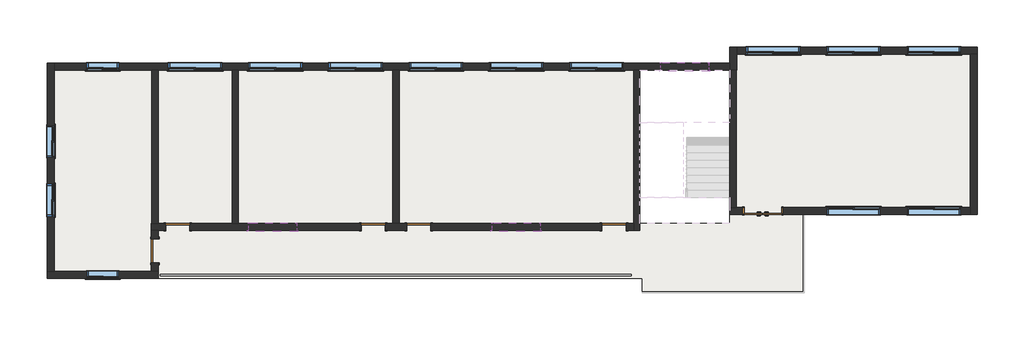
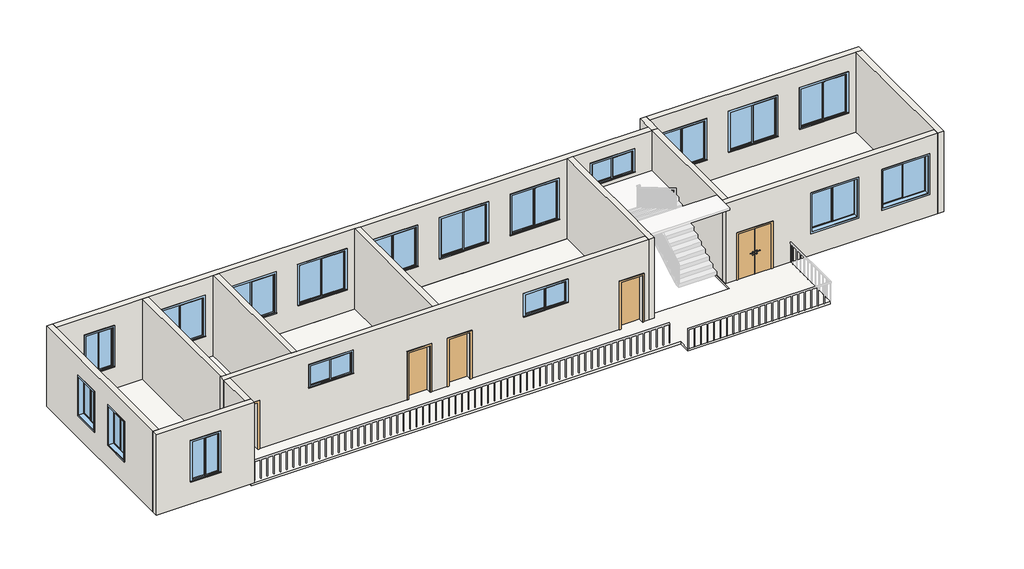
# One storey, part 1 of 3: 18 windows, 14 walls, 6 doors, 1 slab.
"""IFC4 building model written with IfcOpenShell, lengths in millimetres."""

from ifc_helpers import new_model, si_unit, frame, origin, place, context, project, spatial, polyline, outline, extrude, faceted_brep, transform, mapped, element, save
from components import m1_f3cb3123, m1_ab81c9c2, m2_9ba113ef, c1_f694383f, c2_0d9a7da2, c3_ebe1f937

model = new_model("IFC4")

# Units and contexts
model_context = context("Model", 3, world=origin())
ifc_project = project(units=[si_unit("LENGTHUNIT", "METRE", prefix="MILLI")], contexts=[model_context])

# Site, building, storey
site = spatial("IfcSite", under=ifc_project)
building = spatial("IfcBuilding", under=site)
storey = spatial("IfcBuildingStorey", under=building, Name="标高 2", Elevation=3600.0)

# Doors
placement = place(None, origin())
m1_shape = m1_f3cb3123(model_context)
element("IfcDoor", 1, ObjectType="单扇 - 与墙齐 : M1", at=placement, inside=storey, context=model_context, shape_type="MappedRepresentation", body=[
    mapped(m1_shape, transform((-4580.3834175, -5250.9601487, 3600.0), x_axis=(0.0, -1.0, 0.0), y_axis=(1.0, 0.0, 0.0), z_axis=(0.0, 0.0, 1.0))),
])
element("IfcDoor", 2, ObjectType="单扇 - 与墙齐 : M1", at=placement, inside=storey, context=model_context, shape_type="MappedRepresentation", body=[
    mapped(m1_shape, transform((-3730.3834175, -4350.9601487, 3600.0), x_axis=(-1.0, 0.0, 0.0), y_axis=(0.0, -1.0, 0.0), z_axis=(0.0, 0.0, 1.0))),
])
element("IfcDoor", 3, ObjectType="单扇 - 与墙齐 : M1", at=placement, inside=storey, context=model_context, shape_type="MappedRepresentation", body=[
    mapped(m1_shape, transform((5269.6165825, -4350.9601487, 3600.0), x_axis=(-1.0, 0.0, 0.0), y_axis=(0.0, -1.0, 0.0), z_axis=(0.0, 0.0, 1.0))),
])
m1_2_shape = m1_ab81c9c2(model_context)
element("IfcDoor", 4, ObjectType="单扇 - 与墙齐 : M1", at=placement, inside=storey, context=model_context, shape_type="MappedRepresentation", body=[
    mapped(m1_2_shape, transform((3569.6165825, -4350.9601487, 3600.0), x_axis=(1.0, 0.0, 0.0), y_axis=(0.0, 1.0, 0.0), z_axis=(0.0, 0.0, 1.0))),
])
element("IfcDoor", 5, ObjectType="单扇 - 与墙齐 : M1", at=placement, inside=storey, context=model_context, shape_type="MappedRepresentation", body=[
    mapped(m1_2_shape, transform((12569.6165825, -4350.9601487, 3600.0), x_axis=(1.0, 0.0, 0.0), y_axis=(0.0, 1.0, 0.0), z_axis=(0.0, 0.0, 1.0))),
])
m2_shape = m2_9ba113ef(model_context)
element("IfcDoor", 6, ObjectType="双面嵌板木门 1 : M2", at=placement, inside=storey, context=model_context, shape_type="MappedRepresentation", body=[
    mapped(m2_shape, transform((18129.6165825, -3750.9601487, 3600.0), x_axis=(1.0, 0.0, 0.0), y_axis=(0.0, 1.0, 0.0), z_axis=(0.0, 0.0, 1.0))),
])

# Slab
element("IfcSlab", 7, ObjectType="常规 - 100mm", at=placement, inside=storey, context=model_context, shape_type="SweptSolid", body=[
    extrude(outline(polyline([(17149.6165825, 1519.0398513), (17149.6165825, 2119.0398513), (25889.6165825, 2119.0398513), (25889.6165825, -3620.9601487), (19659.6165825, -3620.9601487), (19659.6165825, -6800.9601487), (13619.6165825, -6800.9601487), (13619.6165825, -6280.9601487), (-4580.3834175, -6280.9601487), (-4580.3834175, -6020.9601487), (-8350.3834175, -6020.9601487), (-8350.3834175, 1519.0398513), (13539.6165825, 1519.0398513), (13539.6165825, -4220.9601487), (16889.6165825, -4220.9601487), (16889.6165825, 1519.0398513), (17149.6165825, 1519.0398513)])), frame((0.0, 0.0, 3500.0), z_axis=(0.0, 0.0, 1.0), x_axis=(1.0, 0.0, 0.0)), (0.0, 0.0, 1.0), 100.0),
])

# Walls
element("IfcWall", 8, ObjectType="外墙", at=placement, inside=storey, context=model_context, shape_type="Brep", body=[
    faceted_brep([(-4450.3834175, -6020.9601487, 3600.0), (-4710.3834175, -6020.9601487, 3600.0), (-8350.3834175, -6020.9601487, 3600.0), (-8610.3834175, -6020.9601487, 3600.0), (-8610.3834175, -6020.9601487, 7200.0), (-8350.3834175, -6020.9601487, 7200.0), (-4710.3834175, -6020.9601487, 7200.0), (-4450.3834175, -6020.9601487, 7200.0), (-7130.3834175, -6020.9601487, 6400.0), (-7130.3834175, -6020.9601487, 4600.0), (-5930.3834175, -6020.9601487, 4600.0), (-5930.3834175, -6020.9601487, 6400.0), (-4450.3834175, -6280.9601487, 3600.0), (-4450.3834175, -6280.9601487, 7200.0), (-8610.3834175, -6280.9601487, 7200.0), (-8610.3834175, -6280.9601487, 3600.0), (-7130.3834175, -6280.9601487, 6400.0), (-5930.3834175, -6280.9601487, 6400.0), (-5930.3834175, -6280.9601487, 4600.0), (-7130.3834175, -6280.9601487, 4600.0)], [[[0, 1, 2, 3, 4, 5, 6, 7], [8, 9, 10, 11]], [[12, 13, 14, 15], [16, 17, 18, 19]], [[3, 2, 1, 0, 12, 15]], [[7, 6, 5, 4, 14, 13]], [[4, 3, 15, 14]], [[0, 7, 13, 12]], [[9, 8, 16, 19]], [[10, 9, 19, 18]], [[11, 10, 18, 17]], [[8, 11, 17, 16]]]),
])
element("IfcWall", 9, ObjectType="外墙", at=placement, inside=storey, context=model_context, shape_type="Brep", body=[
    faceted_brep([(-8350.3834175, -6020.9601487, 3600.0), (-8350.3834175, 1519.0398513, 3600.0), (-8350.3834175, 1779.0398513, 3600.0), (-8350.3834175, 1779.0398513, 7200.0), (-8350.3834175, 1519.0398513, 7200.0), (-8350.3834175, -6020.9601487, 7200.0), (-8350.3834175, -1750.9601487, 6400.0), (-8350.3834175, -550.9601487, 6400.0), (-8350.3834175, -550.9601487, 4600.0), (-8350.3834175, -1750.9601487, 4600.0), (-8350.3834175, -3950.9601487, 6400.0), (-8350.3834175, -2750.9601487, 6400.0), (-8350.3834175, -2750.9601487, 4600.0), (-8350.3834175, -3950.9601487, 4600.0), (-8610.3834175, -6020.9601487, 3600.0), (-8610.3834175, -6020.9601487, 7200.0), (-8610.3834175, 1779.0398513, 7200.0), (-8610.3834175, 1779.0398513, 3600.0), (-8610.3834175, -1750.9601487, 6400.0), (-8610.3834175, -1750.9601487, 4600.0), (-8610.3834175, -550.9601487, 4600.0), (-8610.3834175, -550.9601487, 6400.0), (-8610.3834175, -3950.9601487, 6400.0), (-8610.3834175, -3950.9601487, 4600.0), (-8610.3834175, -2750.9601487, 4600.0), (-8610.3834175, -2750.9601487, 6400.0)], [[[0, 1, 2, 3, 4, 5], [6, 7, 8, 9], [10, 11, 12, 13]], [[14, 15, 16, 17], [18, 19, 20, 21], [22, 23, 24, 25]], [[2, 1, 0, 14, 17]], [[5, 4, 3, 16, 15]], [[0, 5, 15, 14]], [[3, 2, 17, 16]], [[19, 18, 6, 9]], [[20, 19, 9, 8]], [[21, 20, 8, 7]], [[18, 21, 7, 6]], [[23, 22, 10, 13]], [[24, 23, 13, 12]], [[25, 24, 12, 11]], [[22, 25, 11, 10]]]),
])
element("IfcWall", 10, ObjectType="外墙", at=placement, inside=storey, context=model_context, shape_type="Brep", body=[
    faceted_brep([(-8350.3834175, 1519.0398513, 3600.0), (-4700.3834175, 1519.0398513, 3600.0), (-4460.3834175, 1519.0398513, 3600.0), (-1700.3834175, 1519.0398513, 3600.0), (-1460.3834175, 1519.0398513, 3600.0), (4299.6165825, 1519.0398513, 3600.0), (4539.6165825, 1519.0398513, 3600.0), (13299.6165825, 1519.0398513, 3600.0), (13539.6165825, 1519.0398513, 3600.0), (16889.6165825, 1519.0398513, 3600.0), (16889.6165825, 1519.0398513, 7200.0), (13539.6165825, 1519.0398513, 7200.0), (13299.6165825, 1519.0398513, 7200.0), (4539.6165825, 1519.0398513, 7200.0), (4299.6165825, 1519.0398513, 7200.0), (-1460.3834175, 1519.0398513, 7200.0), (-1700.3834175, 1519.0398513, 7200.0), (-4460.3834175, 1519.0398513, 7200.0), (-4700.3834175, 1519.0398513, 7200.0), (-8350.3834175, 1519.0398513, 7200.0), (-7130.3834175, 1519.0398513, 6400.0), (-5930.3834175, 1519.0398513, 6400.0), (-5930.3834175, 1519.0398513, 4600.0), (-7130.3834175, 1519.0398513, 4600.0), (-4080.3834175, 1519.0398513, 6400.0), (-2080.3834175, 1519.0398513, 6400.0), (-2080.3834175, 1519.0398513, 4600.0), (-4080.3834175, 1519.0398513, 4600.0), (-1080.3834175, 1519.0398513, 6400.0), (919.6165825, 1519.0398513, 6400.0), (919.6165825, 1519.0398513, 4600.0), (-1080.3834175, 1519.0398513, 4600.0), (1919.6165825, 1519.0398513, 6400.0), (3919.6165825, 1519.0398513, 6400.0), (3919.6165825, 1519.0398513, 4600.0), (1919.6165825, 1519.0398513, 4600.0), (4919.6165825, 1519.0398513, 6400.0), (6919.6165825, 1519.0398513, 6400.0), (6919.6165825, 1519.0398513, 4600.0), (4919.6165825, 1519.0398513, 4600.0), (7919.6165825, 1519.0398513, 6400.0), (9919.6165825, 1519.0398513, 6400.0), (9919.6165825, 1519.0398513, 4600.0), (7919.6165825, 1519.0398513, 4600.0), (10919.6165825, 1519.0398513, 6400.0), (12919.6165825, 1519.0398513, 6400.0), (12919.6165825, 1519.0398513, 4600.0), (10919.6165825, 1519.0398513, 4600.0), (14319.6165825, 1519.0398513, 6600.0), (16119.6165825, 1519.0398513, 6600.0), (16119.6165825, 1519.0398513, 5600.0), (14319.6165825, 1519.0398513, 5600.0), (-8350.3834175, 1779.0398513, 3600.0), (-8350.3834175, 1779.0398513, 7200.0), (16889.6165825, 1779.0398513, 7200.0), (16889.6165825, 1779.0398513, 3600.0), (-7130.3834175, 1779.0398513, 6400.0), (-7130.3834175, 1779.0398513, 4600.0), (-5930.3834175, 1779.0398513, 4600.0), (-5930.3834175, 1779.0398513, 6400.0), (-4080.3834175, 1779.0398513, 6400.0), (-4080.3834175, 1779.0398513, 4600.0), (-2080.3834175, 1779.0398513, 4600.0), (-2080.3834175, 1779.0398513, 6400.0), (-1080.3834175, 1779.0398513, 6400.0), (-1080.3834175, 1779.0398513, 4600.0), (919.6165825, 1779.0398513, 4600.0), (919.6165825, 1779.0398513, 6400.0), (1919.6165825, 1779.0398513, 6400.0), (1919.6165825, 1779.0398513, 4600.0), (3919.6165825, 1779.0398513, 4600.0), (3919.6165825, 1779.0398513, 6400.0), (4919.6165825, 1779.0398513, 6400.0), (4919.6165825, 1779.0398513, 4600.0), (6919.6165825, 1779.0398513, 4600.0), (6919.6165825, 1779.0398513, 6400.0), (7919.6165825, 1779.0398513, 6400.0), (7919.6165825, 1779.0398513, 4600.0), (9919.6165825, 1779.0398513, 4600.0), (9919.6165825, 1779.0398513, 6400.0), (10919.6165825, 1779.0398513, 6400.0), (10919.6165825, 1779.0398513, 4600.0), (12919.6165825, 1779.0398513, 4600.0), (12919.6165825, 1779.0398513, 6400.0), (14319.6165825, 1779.0398513, 6600.0), (14319.6165825, 1779.0398513, 5600.0), (16119.6165825, 1779.0398513, 5600.0), (16119.6165825, 1779.0398513, 6600.0)], [[[0, 1, 2, 3, 4, 5, 6, 7, 8, 9, 10, 11, 12, 13, 14, 15, 16, 17, 18, 19], [20, 21, 22, 23], [24, 25, 26, 27], [28, 29, 30, 31], [32, 33, 34, 35], [36, 37, 38, 39], [40, 41, 42, 43], [44, 45, 46, 47], [48, 49, 50, 51]], [[52, 53, 54, 55], [56, 57, 58, 59], [60, 61, 62, 63], [64, 65, 66, 67], [68, 69, 70, 71], [72, 73, 74, 75], [76, 77, 78, 79], [80, 81, 82, 83], [84, 85, 86, 87]], [[9, 8, 7, 6, 5, 4, 3, 2, 1, 0, 52, 55]], [[19, 18, 17, 16, 15, 14, 13, 12, 11, 10, 54, 53]], [[0, 19, 53, 52]], [[10, 9, 55, 54]], [[57, 56, 20, 23]], [[58, 57, 23, 22]], [[59, 58, 22, 21]], [[56, 59, 21, 20]], [[61, 60, 24, 27]], [[62, 61, 27, 26]], [[63, 62, 26, 25]], [[60, 63, 25, 24]], [[65, 64, 28, 31]], [[66, 65, 31, 30]], [[67, 66, 30, 29]], [[64, 67, 29, 28]], [[69, 68, 32, 35]], [[70, 69, 35, 34]], [[71, 70, 34, 33]], [[68, 71, 33, 32]], [[73, 72, 36, 39]], [[74, 73, 39, 38]], [[75, 74, 38, 37]], [[72, 75, 37, 36]], [[77, 76, 40, 43]], [[78, 77, 43, 42]], [[79, 78, 42, 41]], [[76, 79, 41, 40]], [[81, 80, 44, 47]], [[82, 81, 47, 46]], [[83, 82, 46, 45]], [[80, 83, 45, 44]], [[85, 84, 48, 51]], [[86, 85, 51, 50]], [[87, 86, 50, 49]], [[84, 87, 49, 48]]]),
])
element("IfcWall", 11, ObjectType="外墙", at=placement, inside=storey, context=model_context, shape_type="Brep", body=[
    faceted_brep([(17149.6165825, 1519.0398513, 3600.0), (17149.6165825, 2119.0398513, 3600.0), (17149.6165825, 2379.0398513, 3600.0), (17149.6165825, 2379.0398513, 7200.0), (17149.6165825, 2119.0398513, 7200.0), (17149.6165825, 1519.0398513, 7200.0), (16889.6165825, 1519.0398513, 3600.0), (16889.6165825, 1519.0398513, 7200.0), (16889.6165825, 1779.0398513, 7200.0), (16889.6165825, 2379.0398513, 7200.0), (16889.6165825, 2379.0398513, 3600.0), (16889.6165825, 1779.0398513, 3600.0), (17139.6165825, 1519.0398513, 3600.0), (16899.6165825, 1519.0398513, 3600.0), (16899.6165825, 1519.0398513, 7200.0), (17139.6165825, 1519.0398513, 7200.0)], [[[0, 1, 2, 3, 4, 5]], [[6, 7, 8, 9, 10, 11]], [[2, 1, 0, 12, 13, 6, 11, 10]], [[5, 4, 3, 9, 8, 7, 14, 15]], [[0, 5, 15, 14, 7, 6, 13, 12]], [[3, 2, 10, 9]]]),
])
element("IfcWall", 12, ObjectType="外墙", at=placement, inside=storey, context=model_context, shape_type="Brep", body=[
    faceted_brep([(17149.6165825, 2119.0398513, 3600.0), (25889.6165825, 2119.0398513, 3600.0), (26149.6165825, 2119.0398513, 3600.0), (26149.6165825, 2119.0398513, 7200.0), (25889.6165825, 2119.0398513, 7200.0), (17149.6165825, 2119.0398513, 7200.0), (17519.6165825, 2119.0398513, 6400.0), (19519.6165825, 2119.0398513, 6400.0), (19519.6165825, 2119.0398513, 4600.0), (17519.6165825, 2119.0398513, 4600.0), (20519.6165825, 2119.0398513, 6400.0), (22519.6165825, 2119.0398513, 6400.0), (22519.6165825, 2119.0398513, 4600.0), (20519.6165825, 2119.0398513, 4600.0), (23519.6165825, 2119.0398513, 6400.0), (25519.6165825, 2119.0398513, 6400.0), (25519.6165825, 2119.0398513, 4600.0), (23519.6165825, 2119.0398513, 4600.0), (17149.6165825, 2379.0398513, 3600.0), (17149.6165825, 2379.0398513, 7200.0), (26149.6165825, 2379.0398513, 7200.0), (26149.6165825, 2379.0398513, 3600.0), (17519.6165825, 2379.0398513, 6400.0), (17519.6165825, 2379.0398513, 4600.0), (19519.6165825, 2379.0398513, 4600.0), (19519.6165825, 2379.0398513, 6400.0), (20519.6165825, 2379.0398513, 6400.0), (20519.6165825, 2379.0398513, 4600.0), (22519.6165825, 2379.0398513, 4600.0), (22519.6165825, 2379.0398513, 6400.0), (23519.6165825, 2379.0398513, 6400.0), (23519.6165825, 2379.0398513, 4600.0), (25519.6165825, 2379.0398513, 4600.0), (25519.6165825, 2379.0398513, 6400.0)], [[[0, 1, 2, 3, 4, 5], [6, 7, 8, 9], [10, 11, 12, 13], [14, 15, 16, 17]], [[18, 19, 20, 21], [22, 23, 24, 25], [26, 27, 28, 29], [30, 31, 32, 33]], [[2, 1, 0, 18, 21]], [[5, 4, 3, 20, 19]], [[0, 5, 19, 18]], [[3, 2, 21, 20]], [[23, 22, 6, 9]], [[24, 23, 9, 8]], [[25, 24, 8, 7]], [[22, 25, 7, 6]], [[27, 26, 10, 13]], [[28, 27, 13, 12]], [[29, 28, 12, 11]], [[26, 29, 11, 10]], [[31, 30, 14, 17]], [[32, 31, 17, 16]], [[33, 32, 16, 15]], [[30, 33, 15, 14]]]),
])
element("IfcWall", 13, ObjectType="外墙", at=placement, inside=storey, context=model_context, shape_type="Brep", body=[
    faceted_brep([(25889.6165825, 2119.0398513, 3600.0), (25889.6165825, -3620.9601487, 3600.0), (25889.6165825, -3880.9601487, 3600.0), (25889.6165825, -3880.9601487, 7200.0), (25889.6165825, -3620.9601487, 7200.0), (25889.6165825, 2119.0398513, 7200.0), (26149.6165825, 2119.0398513, 3600.0), (26149.6165825, 2119.0398513, 7200.0), (26149.6165825, -3880.9601487, 7200.0), (26149.6165825, -3880.9601487, 3600.0)], [[[0, 1, 2, 3, 4, 5]], [[6, 7, 8, 9]], [[2, 1, 0, 6, 9]], [[5, 4, 3, 8, 7]], [[0, 5, 7, 6]], [[3, 2, 9, 8]]]),
])
element("IfcWall", 14, ObjectType="外墙", at=placement, inside=storey, context=model_context, shape_type="Brep", body=[
    faceted_brep([(16899.6165825, -3620.9601487, 7200.0), (17139.6165825, -3620.9601487, 7200.0), (25889.6165825, -3620.9601487, 7200.0), (25889.6165825, -3620.9601487, 3600.0), (18879.6165825, -3620.9601487, 3600.0), (18879.6165825, -3620.9601487, 5700.0), (17379.6165825, -3620.9601487, 5700.0), (17379.6165825, -3620.9601487, 3600.0), (17139.6165825, -3620.9601487, 3600.0), (16899.6165825, -3620.9601487, 3600.0), (22519.6165825, -3620.9601487, 6400.0), (20519.6165825, -3620.9601487, 6400.0), (20519.6165825, -3620.9601487, 4600.0), (22519.6165825, -3620.9601487, 4600.0), (25519.6165825, -3620.9601487, 6400.0), (23519.6165825, -3620.9601487, 6400.0), (23519.6165825, -3620.9601487, 4600.0), (25519.6165825, -3620.9601487, 4600.0), (25889.6165825, -3880.9601487, 7200.0), (16899.6165825, -3880.9601487, 7200.0), (16899.6165825, -3880.9601487, 3600.0), (17379.6165825, -3880.9601487, 3600.0), (17379.6165825, -3880.9601487, 5700.0), (18879.6165825, -3880.9601487, 5700.0), (18879.6165825, -3880.9601487, 3600.0), (25889.6165825, -3880.9601487, 3600.0), (22519.6165825, -3880.9601487, 6400.0), (22519.6165825, -3880.9601487, 4600.0), (20519.6165825, -3880.9601487, 4600.0), (20519.6165825, -3880.9601487, 6400.0), (25519.6165825, -3880.9601487, 6400.0), (25519.6165825, -3880.9601487, 4600.0), (23519.6165825, -3880.9601487, 4600.0), (23519.6165825, -3880.9601487, 6400.0)], [[[0, 1, 2, 3, 4, 5, 6, 7, 8, 9], [10, 11, 12, 13], [14, 15, 16, 17]], [[18, 19, 20, 21, 22, 23, 24, 25], [26, 27, 28, 29], [30, 31, 32, 33]], [[3, 25, 24, 4]], [[20, 9, 8, 7, 21]], [[2, 1, 0, 19, 18]], [[3, 2, 18, 25]], [[0, 9, 20, 19]], [[27, 26, 10, 13]], [[28, 27, 13, 12]], [[29, 28, 12, 11]], [[26, 29, 11, 10]], [[31, 30, 14, 17]], [[32, 31, 17, 16]], [[33, 32, 16, 15]], [[30, 33, 15, 14]], [[23, 5, 4, 24]], [[5, 23, 22, 6]], [[6, 22, 21, 7]]]),
])
element("IfcWall", 15, ObjectType="外墙", at=placement, inside=storey, context=model_context, shape_type="Brep", body=[
    faceted_brep([(13299.6165825, -4220.9601487, 3600.0), (13019.6165825, -4220.9601487, 3600.0), (13019.6165825, -4220.9601487, 5700.0), (12119.6165825, -4220.9601487, 5700.0), (12119.6165825, -4220.9601487, 3600.0), (5719.6165825, -4220.9601487, 3600.0), (5719.6165825, -4220.9601487, 5700.0), (4819.6165825, -4220.9601487, 5700.0), (4819.6165825, -4220.9601487, 3600.0), (4539.6165825, -4220.9601487, 3600.0), (4299.6165825, -4220.9601487, 3600.0), (4019.6165825, -4220.9601487, 3600.0), (4019.6165825, -4220.9601487, 5700.0), (3119.6165825, -4220.9601487, 5700.0), (3119.6165825, -4220.9601487, 3600.0), (-1460.3834175, -4220.9601487, 3600.0), (-1700.3834175, -4220.9601487, 3600.0), (-3280.3834175, -4220.9601487, 3600.0), (-3280.3834175, -4220.9601487, 5700.0), (-4180.3834175, -4220.9601487, 5700.0), (-4180.3834175, -4220.9601487, 3600.0), (-4460.3834175, -4220.9601487, 3600.0), (-4700.3834175, -4220.9601487, 3600.0), (-4710.3834175, -4220.9601487, 3600.0), (-4710.3834175, -4220.9601487, 7200.0), (-4700.3834175, -4220.9601487, 7200.0), (-4460.3834175, -4220.9601487, 7200.0), (-1700.3834175, -4220.9601487, 7200.0), (-1460.3834175, -4220.9601487, 7200.0), (4299.6165825, -4220.9601487, 7200.0), (4539.6165825, -4220.9601487, 7200.0), (13299.6165825, -4220.9601487, 7200.0), (8019.6165825, -4220.9601487, 6600.0), (8019.6165825, -4220.9601487, 5600.0), (9819.6165825, -4220.9601487, 5600.0), (9819.6165825, -4220.9601487, 6600.0), (-1080.3834175, -4220.9601487, 6600.0), (-1080.3834175, -4220.9601487, 5600.0), (719.6165825, -4220.9601487, 5600.0), (719.6165825, -4220.9601487, 6600.0), (13019.6165825, -4480.9601487, 5700.0), (13019.6165825, -4480.9601487, 3600.0), (13299.6165825, -4480.9601487, 3600.0), (13299.6165825, -4480.9601487, 7200.0), (-4450.3834175, -4480.9601487, 7200.0), (-4710.3834175, -4480.9601487, 7200.0), (-4710.3834175, -4480.9601487, 3600.0), (-4450.3834175, -4480.9601487, 3600.0), (-4180.3834175, -4480.9601487, 3600.0), (-4180.3834175, -4480.9601487, 5700.0), (-3280.3834175, -4480.9601487, 5700.0), (-3280.3834175, -4480.9601487, 3600.0), (3119.6165825, -4480.9601487, 3600.0), (3119.6165825, -4480.9601487, 5700.0), (4019.6165825, -4480.9601487, 5700.0), (4019.6165825, -4480.9601487, 3600.0), (4819.6165825, -4480.9601487, 3600.0), (4819.6165825, -4480.9601487, 5700.0), (5719.6165825, -4480.9601487, 5700.0), (5719.6165825, -4480.9601487, 3600.0), (12119.6165825, -4480.9601487, 3600.0), (12119.6165825, -4480.9601487, 5700.0), (8019.6165825, -4480.9601487, 6600.0), (9819.6165825, -4480.9601487, 6600.0), (9819.6165825, -4480.9601487, 5600.0), (8019.6165825, -4480.9601487, 5600.0), (-1080.3834175, -4480.9601487, 6600.0), (719.6165825, -4480.9601487, 6600.0), (719.6165825, -4480.9601487, 5600.0), (-1080.3834175, -4480.9601487, 5600.0)], [[[0, 1, 2, 3, 4, 5, 6, 7, 8, 9, 10, 11, 12, 13, 14, 15, 16, 17, 18, 19, 20, 21, 22, 23, 24, 25, 26, 27, 28, 29, 30, 31], [32, 33, 34, 35], [36, 37, 38, 39]], [[40, 41, 42, 43, 44, 45, 46, 47, 48, 49, 50, 51, 52, 53, 54, 55, 56, 57, 58, 59, 60, 61], [62, 63, 64, 65], [66, 67, 68, 69]], [[52, 51, 17, 16, 15, 14]], [[56, 55, 11, 10, 9, 8]], [[60, 59, 5, 4]], [[42, 41, 1, 0]], [[23, 22, 21, 20, 48, 47, 46]], [[31, 30, 29, 28, 27, 26, 25, 24, 45, 44, 43]], [[24, 23, 46, 45]], [[33, 32, 62, 65]], [[34, 33, 65, 64]], [[35, 34, 64, 63]], [[32, 35, 63, 62]], [[37, 36, 66, 69]], [[38, 37, 69, 68]], [[39, 38, 68, 67]], [[36, 39, 67, 66]], [[49, 48, 20, 19]], [[50, 49, 19, 18]], [[51, 50, 18, 17]], [[57, 56, 8, 7]], [[58, 57, 7, 6]], [[59, 58, 6, 5]], [[12, 11, 55, 54]], [[13, 12, 54, 53]], [[14, 13, 53, 52]], [[2, 1, 41, 40]], [[3, 2, 40, 61]], [[4, 3, 61, 60]], [[0, 31, 43, 42]]]),
])
element("IfcWall", 16, ObjectType="外墙", at=placement, inside=storey, context=model_context, shape_type="SweptSolid", body=[
    extrude(outline(polyline([(-5700.9601487, 5700.0), (-5700.9601487, 3600.0), (-6020.9601487, 3600.0), (-6020.9601487, 7200.0), (-4480.9601487, 7200.0), (-4480.9601487, 3600.0), (-4800.9601487, 3600.0), (-4800.9601487, 5700.0), (-5700.9601487, 5700.0)])), frame((-4710.3834175, 0.0, 0.0), z_axis=(1.0, 0.0, 0.0), x_axis=(0.0, 1.0, 0.0)), (0.0, 0.0, 1.0), 260.0),
])
element("IfcWall", 17, ObjectType="内墙", at=placement, inside=storey, context=model_context, shape_type="SweptSolid", body=[
    extrude(outline(polyline([(-4700.3834175, -4220.9601487), (-4700.3834175, 1519.0398513), (-4460.3834175, 1519.0398513), (-4460.3834175, -4220.9601487), (-4700.3834175, -4220.9601487)])), frame((0.0, 0.0, 3600.0), z_axis=(0.0, 0.0, 1.0), x_axis=(1.0, 0.0, 0.0)), (0.0, 0.0, 1.0), 3600.0),
])
element("IfcWall", 18, ObjectType="内墙", at=placement, inside=storey, context=model_context, shape_type="SweptSolid", body=[
    extrude(outline(polyline([(-1700.3834175, -4220.9601487), (-1700.3834175, 1519.0398513), (-1460.3834175, 1519.0398513), (-1460.3834175, -4220.9601487), (-1700.3834175, -4220.9601487)])), frame((0.0, 0.0, 3600.0), z_axis=(0.0, 0.0, 1.0), x_axis=(1.0, 0.0, 0.0)), (0.0, 0.0, 1.0), 3600.0),
])
element("IfcWall", 19, ObjectType="内墙", at=placement, inside=storey, context=model_context, shape_type="SweptSolid", body=[
    extrude(outline(polyline([(4299.6165825, -4220.9601487), (4299.6165825, 1519.0398513), (4539.6165825, 1519.0398513), (4539.6165825, -4220.9601487), (4299.6165825, -4220.9601487)])), frame((0.0, 0.0, 3600.0), z_axis=(0.0, 0.0, 1.0), x_axis=(1.0, 0.0, 0.0)), (0.0, 0.0, 1.0), 3600.0),
])
element("IfcWall", 20, ObjectType="内墙", at=placement, inside=storey, context=model_context, shape_type="Brep", body=[
    faceted_brep([(13299.6165825, 1519.0398513, 3600.0), (13299.6165825, -4220.9601487, 3600.0), (13299.6165825, -4480.9601487, 3600.0), (13299.6165825, -4480.9601487, 7200.0), (13299.6165825, -4220.9601487, 7200.0), (13299.6165825, 1519.0398513, 7200.0), (13539.6165825, 1519.0398513, 3600.0), (13539.6165825, 1519.0398513, 7200.0), (13539.6165825, -4480.9601487, 7200.0), (13539.6165825, -4480.9601487, 3600.0)], [[[0, 1, 2, 3, 4, 5]], [[6, 7, 8, 9]], [[2, 1, 0, 6, 9]], [[5, 4, 3, 8, 7]], [[0, 5, 7, 6]], [[3, 2, 9, 8]]]),
])
element("IfcWall", 21, ObjectType="内墙", at=placement, inside=storey, context=model_context, shape_type="SweptSolid", body=[
    extrude(outline(polyline([(16899.6165825, -3620.9601487), (16899.6165825, 1519.0398513), (17139.6165825, 1519.0398513), (17139.6165825, -3620.9601487), (16899.6165825, -3620.9601487)])), frame((0.0, 0.0, 3600.0), z_axis=(0.0, 0.0, 1.0), x_axis=(1.0, 0.0, 0.0)), (0.0, 0.0, 1.0), 3600.0),
])

# Windows
c1_shape = c1_f694383f(model_context)
element("IfcWindow", 22, ObjectType="推拉窗5 - 带贴面 : C1", at=placement, inside=storey, context=model_context, shape_type="MappedRepresentation", body=[
    mapped(c1_shape, transform((-6520.8584175, -6217.8335862, 3695.0), x_axis=(-1.0, 0.0, 0.0), y_axis=(0.0, -1.0, 0.0), z_axis=(0.0, 0.0, 1.0))),
])
element("IfcWindow", 23, ObjectType="推拉窗5 - 带贴面 : C1", at=placement, inside=storey, context=model_context, shape_type="MappedRepresentation", body=[
    mapped(c1_shape, transform((-8413.50998, -1141.4351487, 3695.0), x_axis=(0.0, -1.0, 0.0), y_axis=(1.0, 0.0, 0.0), z_axis=(0.0, 0.0, 1.0))),
])
element("IfcWindow", 24, ObjectType="推拉窗5 - 带贴面 : C1", at=placement, inside=storey, context=model_context, shape_type="MappedRepresentation", body=[
    mapped(c1_shape, transform((-6520.8584175, 1582.1664138, 3695.0), x_axis=(-1.0, 0.0, 0.0), y_axis=(0.0, -1.0, 0.0), z_axis=(0.0, 0.0, 1.0))),
])
element("IfcWindow", 25, ObjectType="推拉窗5 - 带贴面 : C1", at=placement, inside=storey, context=model_context, shape_type="MappedRepresentation", body=[
    mapped(c1_shape, transform((-8413.50998, -3341.4351487, 3695.0), x_axis=(0.0, -1.0, 0.0), y_axis=(1.0, 0.0, 0.0), z_axis=(0.0, 0.0, 1.0))),
])
c2_shape = c2_0d9a7da2(model_context)
element("IfcWindow", 26, ObjectType="推拉窗5 - 带贴面 : C2", at=placement, inside=storey, context=model_context, shape_type="MappedRepresentation", body=[
    mapped(c2_shape, transform((-3070.8584175, 1582.1664138, 3695.0), x_axis=(-1.0, 0.0, 0.0), y_axis=(0.0, -1.0, 0.0), z_axis=(0.0, 0.0, 1.0))),
])
element("IfcWindow", 27, ObjectType="推拉窗5 - 带贴面 : C2", at=placement, inside=storey, context=model_context, shape_type="MappedRepresentation", body=[
    mapped(c2_shape, transform((-70.8584175, 1582.1664138, 3695.0), x_axis=(-1.0, 0.0, 0.0), y_axis=(0.0, -1.0, 0.0), z_axis=(0.0, 0.0, 1.0))),
])
element("IfcWindow", 28, ObjectType="推拉窗5 - 带贴面 : C2", at=placement, inside=storey, context=model_context, shape_type="MappedRepresentation", body=[
    mapped(c2_shape, transform((2929.1415825, 1582.1664138, 3695.0), x_axis=(-1.0, 0.0, 0.0), y_axis=(0.0, -1.0, 0.0), z_axis=(0.0, 0.0, 1.0))),
])
element("IfcWindow", 29, ObjectType="推拉窗5 - 带贴面 : C2", at=placement, inside=storey, context=model_context, shape_type="MappedRepresentation", body=[
    mapped(c2_shape, transform((5929.1415825, 1582.1664138, 3695.0), x_axis=(-1.0, 0.0, 0.0), y_axis=(0.0, -1.0, 0.0), z_axis=(0.0, 0.0, 1.0))),
])
element("IfcWindow", 30, ObjectType="推拉窗5 - 带贴面 : C2", at=placement, inside=storey, context=model_context, shape_type="MappedRepresentation", body=[
    mapped(c2_shape, transform((8929.1415825, 1582.1664138, 3695.0), x_axis=(-1.0, 0.0, 0.0), y_axis=(0.0, -1.0, 0.0), z_axis=(0.0, 0.0, 1.0))),
])
element("IfcWindow", 31, ObjectType="推拉窗5 - 带贴面 : C2", at=placement, inside=storey, context=model_context, shape_type="MappedRepresentation", body=[
    mapped(c2_shape, transform((11929.1415825, 1582.1664138, 3695.0), x_axis=(-1.0, 0.0, 0.0), y_axis=(0.0, -1.0, 0.0), z_axis=(0.0, 0.0, 1.0))),
])
element("IfcWindow", 32, ObjectType="推拉窗5 - 带贴面 : C2", at=placement, inside=storey, context=model_context, shape_type="MappedRepresentation", body=[
    mapped(c2_shape, transform((18529.1415825, 2182.1664138, 3695.0), x_axis=(-1.0, 0.0, 0.0), y_axis=(0.0, -1.0, 0.0), z_axis=(0.0, 0.0, 1.0))),
])
element("IfcWindow", 33, ObjectType="推拉窗5 - 带贴面 : C2", at=placement, inside=storey, context=model_context, shape_type="MappedRepresentation", body=[
    mapped(c2_shape, transform((21529.1415825, 2182.1664138, 3695.0), x_axis=(-1.0, 0.0, 0.0), y_axis=(0.0, -1.0, 0.0), z_axis=(0.0, 0.0, 1.0))),
])
element("IfcWindow", 34, ObjectType="推拉窗5 - 带贴面 : C2", at=placement, inside=storey, context=model_context, shape_type="MappedRepresentation", body=[
    mapped(c2_shape, transform((24529.1415825, 2182.1664138, 3695.0), x_axis=(-1.0, 0.0, 0.0), y_axis=(0.0, -1.0, 0.0), z_axis=(0.0, 0.0, 1.0))),
])
element("IfcWindow", 35, ObjectType="推拉窗5 - 带贴面 : C2", at=placement, inside=storey, context=model_context, shape_type="MappedRepresentation", body=[
    mapped(c2_shape, transform((21510.0915825, -3684.0867112, 3695.0), x_axis=(1.0, 0.0, 0.0), y_axis=(0.0, 1.0, 0.0), z_axis=(0.0, 0.0, 1.0))),
])
element("IfcWindow", 36, ObjectType="推拉窗5 - 带贴面 : C2", at=placement, inside=storey, context=model_context, shape_type="MappedRepresentation", body=[
    mapped(c2_shape, transform((24510.0915825, -3684.0867112, 3695.0), x_axis=(1.0, 0.0, 0.0), y_axis=(0.0, 1.0, 0.0), z_axis=(0.0, 0.0, 1.0))),
])
c3_shape = c3_ebe1f937(model_context)
element("IfcWindow", 37, ObjectType="推拉窗5 - 带贴面 : C3", at=placement, inside=storey, context=model_context, shape_type="MappedRepresentation", body=[
    mapped(c3_shape, transform((15229.1415825, 1582.1664138, 4695.0), x_axis=(-1.0, 0.0, 0.0), y_axis=(0.0, -1.0, 0.0), z_axis=(0.0, 0.0, 1.0))),
])
element("IfcWindow", 38, ObjectType="推拉窗5 - 带贴面 : C3", at=placement, inside=storey, context=model_context, shape_type="MappedRepresentation", body=[
    mapped(c3_shape, transform((8929.1415825, -4417.8335862, 4695.0), x_axis=(-1.0, 0.0, 0.0), y_axis=(0.0, -1.0, 0.0), z_axis=(0.0, 0.0, 1.0))),
])
element("IfcWindow", 39, ObjectType="推拉窗5 - 带贴面 : C3", at=placement, inside=storey, context=model_context, shape_type="MappedRepresentation", body=[
    mapped(c3_shape, transform((-170.8584175, -4417.8335862, 4695.0), x_axis=(-1.0, 0.0, 0.0), y_axis=(0.0, -1.0, 0.0), z_axis=(0.0, 0.0, 1.0))),
])

save(model, "model.ifc")
